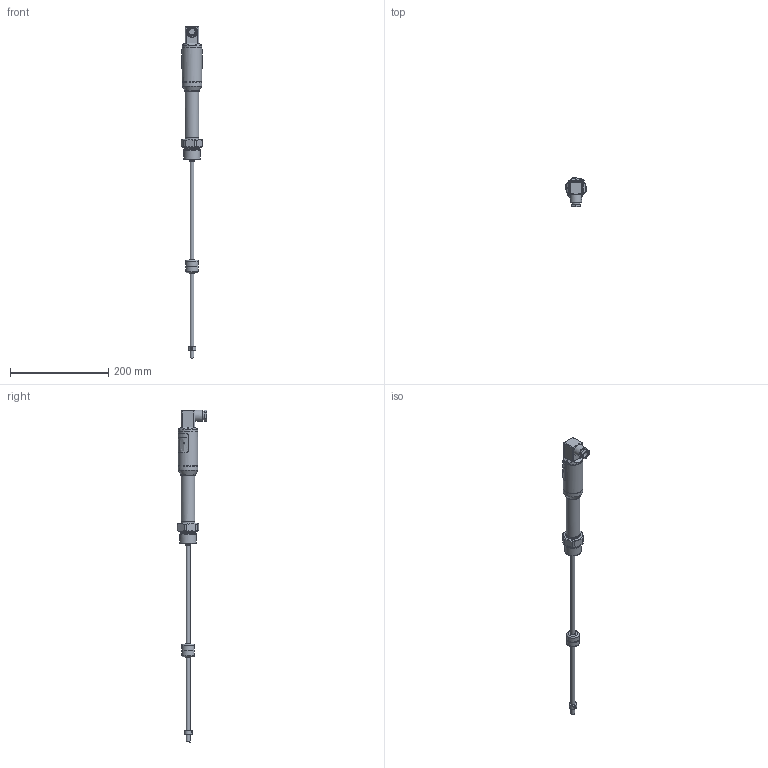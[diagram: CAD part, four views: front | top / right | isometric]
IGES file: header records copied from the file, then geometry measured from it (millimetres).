
Global section: file name: 1_5C_MINI; native system: Autodesk Inventor 2015; preprocessor: unknown; author: aantal; date: 20150430.172528; units: millimetre
Bounding box: 44.55 x 59.75 x 674.5 mm (x, y, z)
Volume: 289683 mm3; surface area: 63793.4 mm2
Topology: 9 solids, 9 shells, 242 faces, 587 edges, 386 vertices
Faces by surface type: bspline 242
